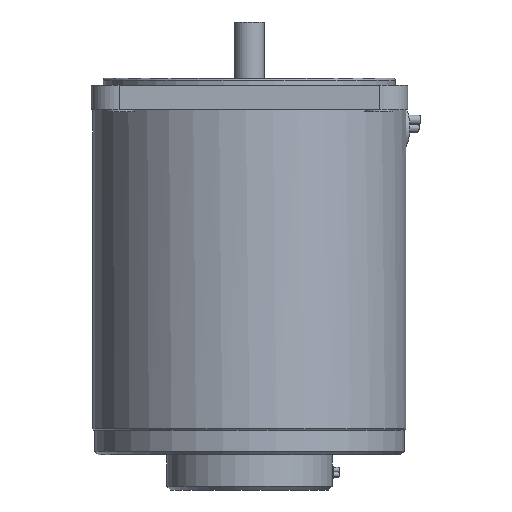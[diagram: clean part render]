
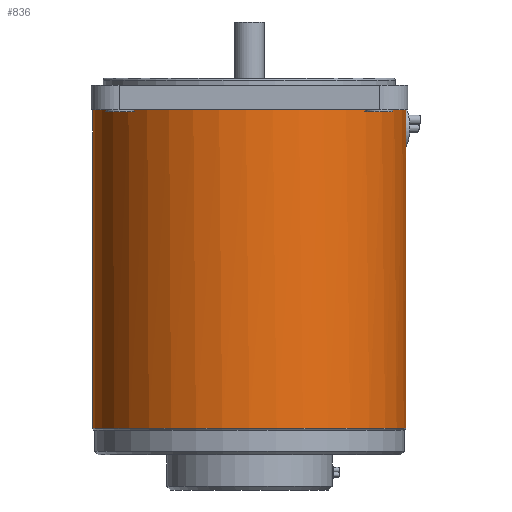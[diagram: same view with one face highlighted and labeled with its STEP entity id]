
A CAD part, front view. The second image highlights one B-rep face of the part: STEP entity #836.
In plain terms, the highlighted cylindrical face has radius 44.5 mm (diameter 89 mm), a full revolution.
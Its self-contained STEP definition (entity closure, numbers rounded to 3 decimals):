
#662=CARTESIAN_POINT('',(39.344,20.792,98.));
#663=VERTEX_POINT('',#662);
#671=CARTESIAN_POINT('',(42.523,13.118,98.0));
#672=VERTEX_POINT('',#671);
#679=CARTESIAN_POINT('',(39.344,20.792,98.));
#680=CARTESIAN_POINT('',(39.271,20.931,97.871));
#681=CARTESIAN_POINT('',(39.201,21.062,97.735));
#682=CARTESIAN_POINT('',(38.858,21.694,97.02));
#683=CARTESIAN_POINT('',(38.608,22.132,96.29));
#684=CARTESIAN_POINT('',(38.27,22.71,94.689));
#685=CARTESIAN_POINT('',(38.184,22.852,93.817));
#686=CARTESIAN_POINT('',(38.184,22.852,92.183));
#687=CARTESIAN_POINT('',(38.27,22.71,91.311));
#688=CARTESIAN_POINT('',(38.608,22.132,89.71));
#689=CARTESIAN_POINT('',(38.858,21.694,88.98));
#690=CARTESIAN_POINT('',(39.41,20.675,87.827));
#691=CARTESIAN_POINT('',(39.748,20.025,87.327));
#692=CARTESIAN_POINT('',(40.444,18.58,86.664));
#693=CARTESIAN_POINT('',(40.8,17.785,86.5));
#694=CARTESIAN_POINT('',(41.425,16.274,86.5));
#695=CARTESIAN_POINT('',(41.736,15.46,86.664));
#696=CARTESIAN_POINT('',(42.266,13.946,87.327));
#697=CARTESIAN_POINT('',(42.486,13.247,87.827));
#698=CARTESIAN_POINT('',(42.817,12.137,88.98));
#699=CARTESIAN_POINT('',(42.949,11.65,89.71));
#700=CARTESIAN_POINT('',(43.12,11.002,91.311));
#701=CARTESIAN_POINT('',(43.159,10.842,92.183));
#702=CARTESIAN_POINT('',(43.159,10.842,93.0));
#703=CARTESIAN_POINT('',(43.159,10.842,93.817));
#704=CARTESIAN_POINT('',(43.12,11.002,94.689));
#705=CARTESIAN_POINT('',(42.949,11.65,96.29));
#706=CARTESIAN_POINT('',(42.817,12.137,97.02));
#707=CARTESIAN_POINT('',(42.612,12.826,97.735));
#708=CARTESIAN_POINT('',(42.569,12.968,97.871));
#709=CARTESIAN_POINT('',(42.523,13.118,98.0));
#710=B_SPLINE_CURVE_WITH_KNOTS('',3,(#679,#680,#681,#682,#683,#684,#685,#686,#687,#688,#689,#690,#691,#692,#693,#694,#695,#696,#697,#698,#699,#700,#701,#702,#703,#704,#705,#706,#707,#708,#709),.UNSPECIFIED.,.F.,.U.,(4,2,2,2,2,2,2,2,2,2,2,3,2,2,4),(-2.511,-2.452,-2.207,-1.962,-1.717,-1.471,-1.226,-0.981,-0.736,-0.49,-0.245,0.0,0.245,0.49,0.55),.UNSPECIFIED.);
#711=EDGE_CURVE('',#663,#672,#710,.T.);
#805=CARTESIAN_POINT('',(0.0,0.0,98.0));
#806=DIRECTION('',(0.0,0.0,1.0));
#807=DIRECTION('',(0.618,-0.786,0.0));
#808=AXIS2_PLACEMENT_3D('',#805,#806,#807);
#809=CIRCLE('',#808,44.5);
#810=EDGE_CURVE('',#663,#672,#809,.T.);
#816=CARTESIAN_POINT('',(0.0,0.0,0.0));
#817=DIRECTION('',(0.0,0.0,1.0));
#818=DIRECTION('',(-1.0,0.0,0.0));
#819=AXIS2_PLACEMENT_3D('',#816,#817,#818);
#820=CYLINDRICAL_SURFACE('',#819,44.5);
#821=CARTESIAN_POINT('',(-44.5,0.,7.5));
#822=VERTEX_POINT('',#821);
#823=CARTESIAN_POINT('',(0.0,0.0,7.5));
#824=DIRECTION('',(0.0,0.0,-1.0));
#825=DIRECTION('',(1.0,0.0,0.0));
#826=AXIS2_PLACEMENT_3D('',#823,#824,#825);
#827=CIRCLE('',#826,44.5);
#828=EDGE_CURVE('',#822,#822,#827,.T.);
#829=ORIENTED_EDGE('',*,*,#828,.F.);
#830=EDGE_LOOP('',(#829));
#831=FACE_OUTER_BOUND('',#830,.T.);
#832=ORIENTED_EDGE('',*,*,#711,.T.);
#833=ORIENTED_EDGE('',*,*,#810,.F.);
#834=EDGE_LOOP('',(#832,#833));
#835=FACE_BOUND('',#834,.T.);
#836=ADVANCED_FACE('',(#831,#835),#820,.T.);
